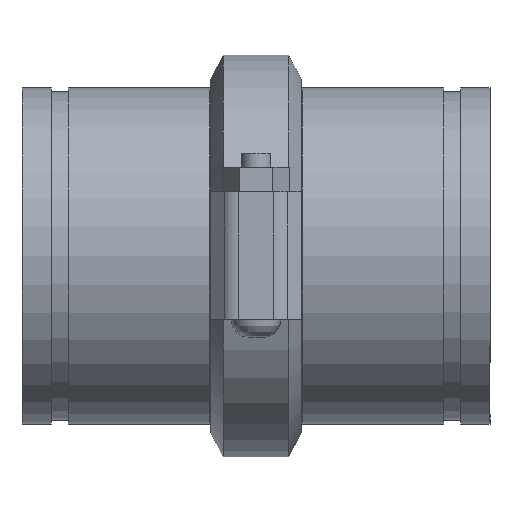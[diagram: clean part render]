
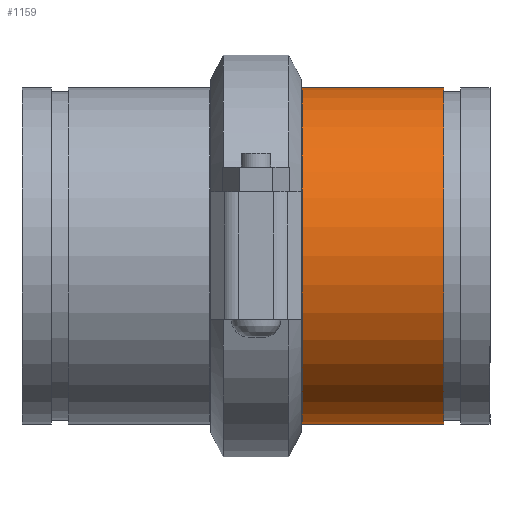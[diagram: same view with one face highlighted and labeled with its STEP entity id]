
A CAD part, top view. The second image highlights one B-rep face of the part: STEP entity #1159.
In plain terms, the highlighted cylindrical face has radius 109.537 mm (diameter 219.075 mm), a full revolution.
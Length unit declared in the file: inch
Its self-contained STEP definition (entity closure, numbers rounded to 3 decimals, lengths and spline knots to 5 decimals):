
#48=LINE('',#1822,#133);
#133=VECTOR('',#1481,4.3125);
#218=CYLINDRICAL_SURFACE('',#1314,4.3125);
#259=FACE_OUTER_BOUND('',#328,.T.);
#328=EDGE_LOOP('',(#765,#766,#767,#768,#769,#770));
#414=CIRCLE('',#1312,4.3125);
#415=CIRCLE('',#1313,4.3125);
#416=CIRCLE('',#1315,4.3125);
#417=CIRCLE('',#1316,4.3125);
#478=VERTEX_POINT('',#1813);
#479=VERTEX_POINT('',#1814);
#480=VERTEX_POINT('',#1818);
#481=VERTEX_POINT('',#1819);
#591=EDGE_CURVE('',#478,#479,#414,.T.);
#592=EDGE_CURVE('',#479,#478,#415,.T.);
#593=EDGE_CURVE('',#480,#481,#416,.T.);
#594=EDGE_CURVE('',#481,#480,#417,.T.);
#595=EDGE_CURVE('',#481,#479,#48,.T.);
#765=ORIENTED_EDGE('',*,*,#593,.F.);
#766=ORIENTED_EDGE('',*,*,#594,.F.);
#767=ORIENTED_EDGE('',*,*,#595,.T.);
#768=ORIENTED_EDGE('',*,*,#592,.T.);
#769=ORIENTED_EDGE('',*,*,#591,.T.);
#770=ORIENTED_EDGE('',*,*,#595,.F.);
#1159=ADVANCED_FACE('',(#259),#218,.T.);
#1312=AXIS2_PLACEMENT_3D('',#1815,#1471,#1472);
#1313=AXIS2_PLACEMENT_3D('',#1816,#1473,#1474);
#1314=AXIS2_PLACEMENT_3D('',#1817,#1475,#1476);
#1315=AXIS2_PLACEMENT_3D('',#1820,#1477,#1478);
#1316=AXIS2_PLACEMENT_3D('',#1821,#1479,#1480);
#1471=DIRECTION('center_axis',(-1.,0.,0.));
#1472=DIRECTION('ref_axis',(0.,0.,1.));
#1473=DIRECTION('center_axis',(-1.,0.,0.));
#1474=DIRECTION('ref_axis',(0.,0.,1.));
#1475=DIRECTION('center_axis',(-1.,0.,0.));
#1476=DIRECTION('ref_axis',(0.,1.,0.));
#1477=DIRECTION('center_axis',(-1.,0.,0.));
#1478=DIRECTION('ref_axis',(0.,0.,1.));
#1479=DIRECTION('center_axis',(-1.,0.,0.));
#1480=DIRECTION('ref_axis',(0.,0.,1.));
#1481=DIRECTION('',(1.,0.,0.));
#1813=CARTESIAN_POINT('',(1.812,4.3125,0.));
#1814=CARTESIAN_POINT('',(1.812,-4.3125,0.));
#1815=CARTESIAN_POINT('Origin',(1.812,0.,0.));
#1816=CARTESIAN_POINT('Origin',(1.812,0.,0.));
#1817=CARTESIAN_POINT('Origin',(0.,0.,
0.));
#1818=CARTESIAN_POINT('',(-1.812,4.3125,0.));
#1819=CARTESIAN_POINT('',(-1.812,-4.3125,0.));
#1820=CARTESIAN_POINT('Origin',(-1.812,0.,0.));
#1821=CARTESIAN_POINT('Origin',(-1.812,0.,0.));
#1822=CARTESIAN_POINT('',(0.,-4.3125,0.));
